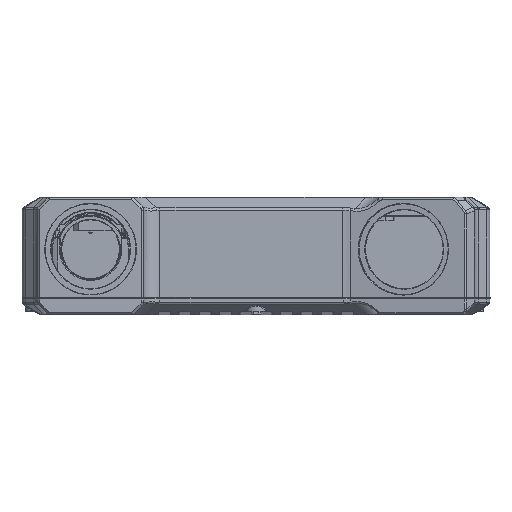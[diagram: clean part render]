
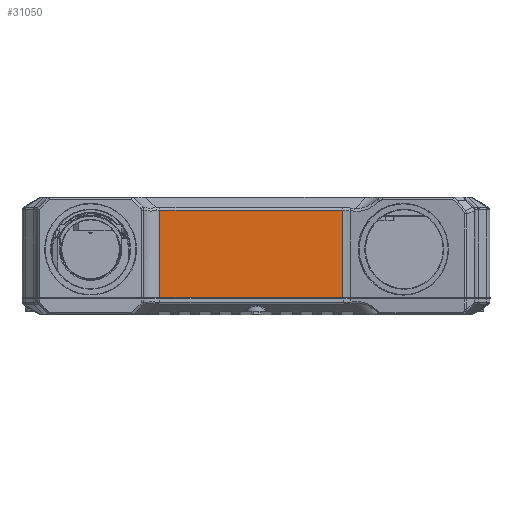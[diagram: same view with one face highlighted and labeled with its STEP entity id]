
A CAD part, left-side view. The second image highlights one B-rep face of the part: STEP entity #31050.
In plain terms, the highlighted planar face has unit normal (-1, 0, 0).
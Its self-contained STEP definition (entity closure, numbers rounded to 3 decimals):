
#8900=DIRECTION('',(0.,1.,0.));
#8901=VECTOR('',#8900,80.708);
#8902=CARTESIAN_POINT('',(-26.998,-120.729,
-41.346));
#8903=LINE('',#8902,#8901);
#8904=DIRECTION('',(0.,0.,-1.));
#8905=VECTOR('',#8904,38.546);
#8906=CARTESIAN_POINT('',(-26.998,-40.021,
-2.8));
#8907=LINE('',#8906,#8905);
#8908=DIRECTION('',(0.,-1.,0.));
#8909=VECTOR('',#8908,80.707);
#8910=CARTESIAN_POINT('',(-26.998,-40.021,
-2.8));
#8911=LINE('',#8910,#8909);
#8912=DIRECTION('',(0.,0.,1.));
#8913=VECTOR('',#8912,38.552);
#8914=CARTESIAN_POINT('',(-26.998,-120.729,
-41.346));
#8915=LINE('',#8914,#8913);
#17361=CARTESIAN_POINT('',(-26.997,-120.728,
-2.794));
#17363=VERTEX_POINT('',#17361);
#17364=CARTESIAN_POINT('',(-26.998,-40.021,
-2.8));
#17365=VERTEX_POINT('',#17364);
#18644=CARTESIAN_POINT('',(-26.998,-120.729,
-41.346));
#18645=VERTEX_POINT('',#18644);
#18648=CARTESIAN_POINT('',(-26.998,-40.021,
-41.346));
#18649=VERTEX_POINT('',#18648);
#31036=CARTESIAN_POINT('',(-26.998,-32.95,-47.5));
#31037=DIRECTION('',(1.,0.,0.));
#31038=DIRECTION('',(0.,-1.,0.));
#31039=AXIS2_PLACEMENT_3D('',#31036,#31037,#31038);
#31040=PLANE('',#31039);
#31042=ORIENTED_EDGE('',*,*,#31041,.T.);
#31044=ORIENTED_EDGE('',*,*,#31043,.F.);
#31045=ORIENTED_EDGE('',*,*,#31027,.T.);
#31047=ORIENTED_EDGE('',*,*,#31046,.F.);
#31048=EDGE_LOOP('',(#31042,#31044,#31045,#31047));
#31049=FACE_OUTER_BOUND('',#31048,.F.);
#31027=EDGE_CURVE('',#17365,#17363,#8911,.T.);
#31041=EDGE_CURVE('',#18645,#18649,#8903,.T.);
#31043=EDGE_CURVE('',#17365,#18649,#8907,.T.);
#31046=EDGE_CURVE('',#18645,#17363,#8915,.T.);
#31050=ADVANCED_FACE('',(#31049),#31040,.F.);
